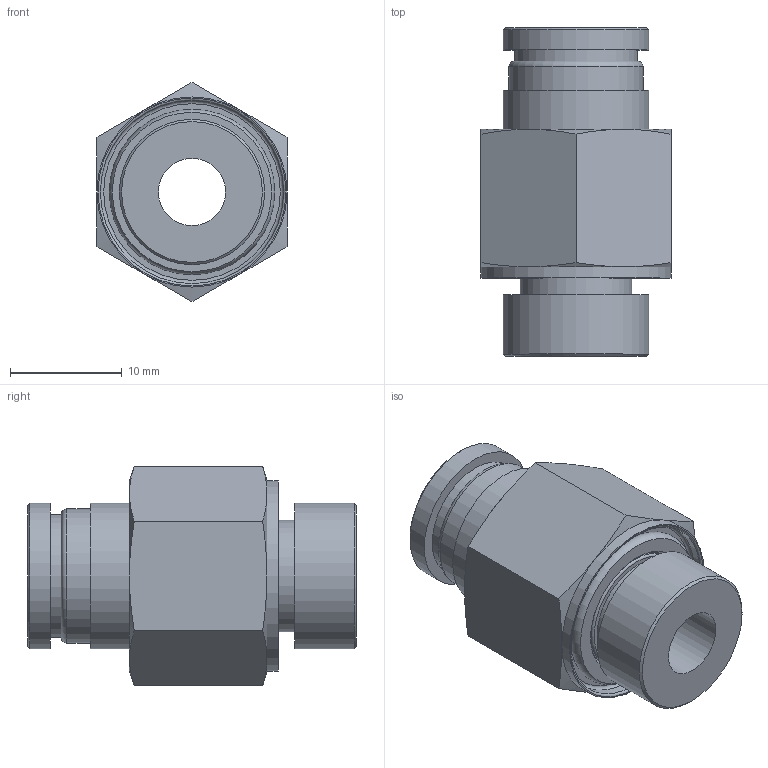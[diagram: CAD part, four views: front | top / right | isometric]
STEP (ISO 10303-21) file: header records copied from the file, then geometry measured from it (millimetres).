
FILE_DESCRIPTION(/* description */ (''),/* implementation_level */ '2;1');
FILE_NAME(/* name */ 'LXH18 0010 B2.stp',/* time_stamp */ '2026-04-20T19:30:49+02:00',/* author */ ('freju'),/* organization */ (''),/* preprocessor_version */ 'ST-DEVELOPER v20.1',/* originating_system */ 'Autodesk Inventor 2026',/* authorisation */ '');
FILE_SCHEMA (('AUTOMOTIVE_DESIGN { 1 0 10303 214 3 1 1 }'));
Length unit declared in the file: millimetre
Products named in the file (4): LXH18 0010 B2; LXH18 0010 B2_1; O-Ring; ISO 3601-1 - A 0112 G
Assembly tree (3 placements, depth 3):
  LXH18 0010 B2
    LXH18 0010 B2_1
    O-Ring
      ISO 3601-1 - A 0112 G
Bounding box: 17 x 29.4 x 19.63 mm (x, y, z)
Volume: 3594.8 mm3; surface area: 3063.4 mm2
Topology: 2 solids, 2 shells, 50 faces, 101 edges, 63 vertices
Faces by surface type: plane 18, cone 14, cylinder 11, torus 7
Full cylindrical faces by diameter (mm): 6 x1, 10 x2, 11 x1, 11.2 x1, 12 x1, 13 x3, 16.4 x1, 17 x1
Entity records: 1445 total; most frequent: CARTESIAN_POINT 269, DIRECTION 249, ORIENTED_EDGE 202, AXIS2_PLACEMENT_3D 115, EDGE_CURVE 101, VERTEX_POINT 63, EDGE_LOOP 62, CIRCLE 58
